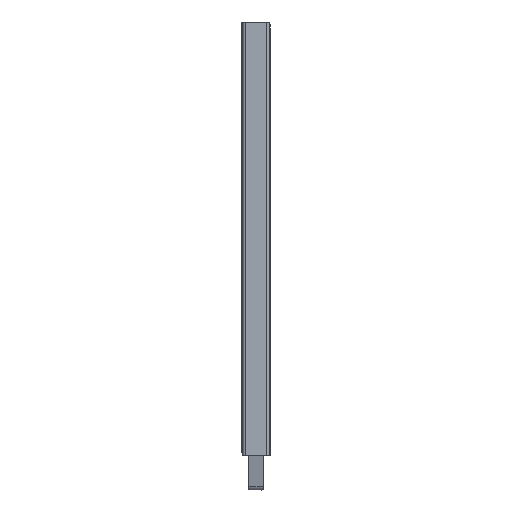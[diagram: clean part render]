
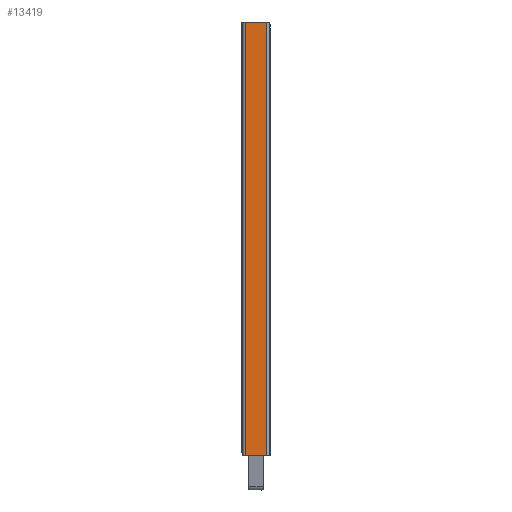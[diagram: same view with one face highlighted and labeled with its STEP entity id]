
A CAD part, left-side view. The second image highlights one B-rep face of the part: STEP entity #13419.
In plain terms, the highlighted planar face has unit normal (-1, 0, 0).
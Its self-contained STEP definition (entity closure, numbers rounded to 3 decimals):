
#380 = DIRECTION ( 'NONE',  ( 1., 0., 0. ) ) ;
#1390 = CARTESIAN_POINT ( 'NONE',  ( -25.35, 7.575, -150. ) ) ;
#2166 = CARTESIAN_POINT ( 'NONE',  ( -25.35, 7.575, 150. ) ) ;
#2263 = DIRECTION ( 'NONE',  ( 0., -1., 0. ) ) ;
#3020 = LINE ( 'NONE', #1390, #9791 ) ;
#3668 = VECTOR ( 'NONE', #22708, 1000. ) ;
#3986 = VERTEX_POINT ( 'NONE', #14349 ) ;
#4073 = DIRECTION ( 'NONE',  ( 0., 0., -1. ) ) ;
#4167 = CARTESIAN_POINT ( 'NONE',  ( -25.35, 7.575, 150. ) ) ;
#5355 = EDGE_CURVE ( 'NONE', #18625, #6064, #14874, .T. ) ;
#6064 = VERTEX_POINT ( 'NONE', #6405 ) ;
#6405 = CARTESIAN_POINT ( 'NONE',  ( -25.35, 7.575, -150. ) ) ;
#7086 = CARTESIAN_POINT ( 'NONE',  ( -25.35, -7.575, -150. ) ) ;
#8060 = LINE ( 'NONE', #10195, #16104 ) ;
#8576 = DIRECTION ( 'NONE',  ( 0., 0., -1. ) ) ;
#9572 = DIRECTION ( 'NONE',  ( 0., -1., 0. ) ) ;
#9791 = VECTOR ( 'NONE', #9572, 1000. ) ;
#10195 = CARTESIAN_POINT ( 'NONE',  ( -25.35, 7.575, 150. ) ) ;
#10433 = PLANE ( 'NONE',  #11750 ) ;
#10703 = FACE_OUTER_BOUND ( 'NONE', #13709, .T. ) ;
#11110 = ORIENTED_EDGE ( 'NONE', *, *, #15956, .F. ) ;
#11750 = AXIS2_PLACEMENT_3D ( 'NONE', #23088, #380, #8576 ) ;
#13082 = EDGE_CURVE ( 'NONE', #3986, #19286, #16550, .T. ) ;
#13419 = ADVANCED_FACE ( 'NONE', ( #10703 ), #10433, .F. ) ;
#13709 = EDGE_LOOP ( 'NONE', ( #26392, #23096, #11110, #16728 ) ) ;
#14349 = CARTESIAN_POINT ( 'NONE',  ( -25.35, -7.575, 150. ) ) ;
#14874 = LINE ( 'NONE', #4167, #3668 ) ;
#15956 = EDGE_CURVE ( 'NONE', #18625, #3986, #8060, .T. ) ;
#16104 = VECTOR ( 'NONE', #2263, 1000. ) ;
#16550 = LINE ( 'NONE', #24783, #24634 ) ;
#16728 = ORIENTED_EDGE ( 'NONE', *, *, #5355, .T. ) ;
#18474 = EDGE_CURVE ( 'NONE', #6064, #19286, #3020, .T. ) ;
#18625 = VERTEX_POINT ( 'NONE', #2166 ) ;
#19286 = VERTEX_POINT ( 'NONE', #7086 ) ;
#22708 = DIRECTION ( 'NONE',  ( 0., 0., -1. ) ) ;
#23088 = CARTESIAN_POINT ( 'NONE',  ( -25.35, 7.575, 150. ) ) ;
#23096 = ORIENTED_EDGE ( 'NONE', *, *, #13082, .F. ) ;
#24634 = VECTOR ( 'NONE', #4073, 1000. ) ;
#24783 = CARTESIAN_POINT ( 'NONE',  ( -25.35, -7.575, 150. ) ) ;
#26392 = ORIENTED_EDGE ( 'NONE', *, *, #18474, .T. ) ;
